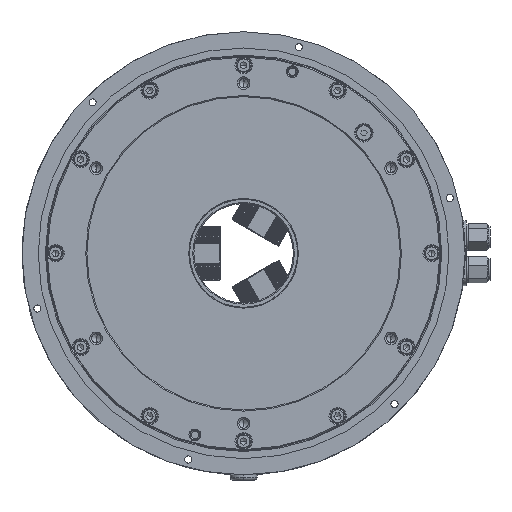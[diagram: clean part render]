
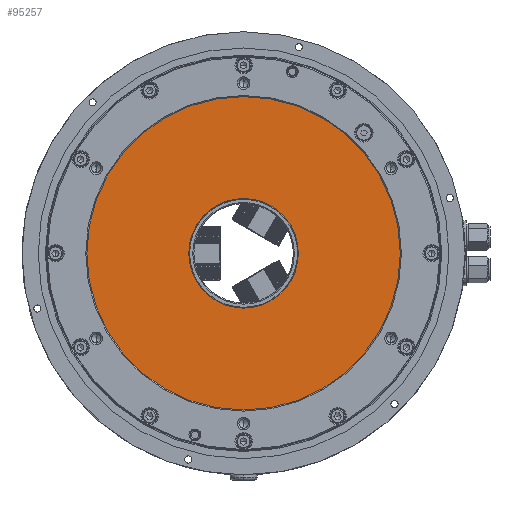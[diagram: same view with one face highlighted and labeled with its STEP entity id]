
A CAD part, left-side view. The second image highlights one B-rep face of the part: STEP entity #95257.
In plain terms, the highlighted planar face has unit normal (-1, 0, 0).
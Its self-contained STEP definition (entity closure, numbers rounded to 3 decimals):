
#1442 = ORIENTED_EDGE ( 'NONE', *, *, #46640, .T. ) ;
#1880 = DIRECTION ( 'NONE',  ( 0., 0., -1. ) ) ;
#4960 = DIRECTION ( 'NONE',  ( 1., 0., 0. ) ) ;
#5455 = DIRECTION ( 'NONE',  ( 0., 0., -1. ) ) ;
#14093 = EDGE_CURVE ( 'NONE', #69876, #135589, #16324, .T. ) ;
#16324 = CIRCLE ( 'NONE', #30796, 145. ) ;
#16886 = DIRECTION ( 'NONE',  ( 0., 0., 1. ) ) ;
#28160 = CARTESIAN_POINT ( 'NONE',  ( -147., 0., -145. ) ) ;
#30478 = CARTESIAN_POINT ( 'NONE',  ( -147., 145., 0. ) ) ;
#30796 = AXIS2_PLACEMENT_3D ( 'NONE', #33025, #4960, #173344 ) ;
#33025 = CARTESIAN_POINT ( 'NONE',  ( -147., 0., 0. ) ) ;
#38681 = DIRECTION ( 'NONE',  ( 1., 0., 0. ) ) ;
#44087 = FACE_OUTER_BOUND ( 'NONE', #70725, .T. ) ;
#46640 = EDGE_CURVE ( 'NONE', #113549, #73156, #59351, .T. ) ;
#53883 = ORIENTED_EDGE ( 'NONE', *, *, #14093, .F. ) ;
#54043 = CARTESIAN_POINT ( 'NONE',  ( -147., 0., 0. ) ) ;
#59351 = CIRCLE ( 'NONE', #82338, 50.7 ) ;
#62879 = CARTESIAN_POINT ( 'NONE',  ( -147., 0., 145. ) ) ;
#69876 = VERTEX_POINT ( 'NONE', #28160 ) ;
#70725 = EDGE_LOOP ( 'NONE', ( #53883, #108895 ) ) ;
#73156 = VERTEX_POINT ( 'NONE', #166239 ) ;
#74297 = CARTESIAN_POINT ( 'NONE',  ( -147., 0., 0. ) ) ;
#82338 = AXIS2_PLACEMENT_3D ( 'NONE', #54043, #38681, #149133 ) ;
#83434 = AXIS2_PLACEMENT_3D ( 'NONE', #152234, #96117, #1880 ) ;
#85704 = DIRECTION ( 'NONE',  ( -1., 0., 0. ) ) ;
#88711 = EDGE_CURVE ( 'NONE', #135589, #69876, #93597, .T. ) ;
#93597 = CIRCLE ( 'NONE', #171629, 145. ) ;
#95257 = ADVANCED_FACE ( 'NONE', ( #168095, #44087 ), #99326, .T. ) ;
#96117 = DIRECTION ( 'NONE',  ( 1., 0., 0. ) ) ;
#99326 = PLANE ( 'NONE',  #135111 ) ;
#101344 = ORIENTED_EDGE ( 'NONE', *, *, #121001, .T. ) ;
#108895 = ORIENTED_EDGE ( 'NONE', *, *, #88711, .F. ) ;
#113549 = VERTEX_POINT ( 'NONE', #139936 ) ;
#121001 = EDGE_CURVE ( 'NONE', #73156, #113549, #167315, .T. ) ;
#135111 = AXIS2_PLACEMENT_3D ( 'NONE', #30478, #85704, #16886 ) ;
#135589 = VERTEX_POINT ( 'NONE', #62879 ) ;
#139936 = CARTESIAN_POINT ( 'NONE',  ( -147., 0., -50.7 ) ) ;
#149133 = DIRECTION ( 'NONE',  ( 0., 0., -1. ) ) ;
#152234 = CARTESIAN_POINT ( 'NONE',  ( -147., 0., 0. ) ) ;
#166239 = CARTESIAN_POINT ( 'NONE',  ( -147., 0., 50.7 ) ) ;
#167315 = CIRCLE ( 'NONE', #83434, 50.7 ) ;
#168095 = FACE_BOUND ( 'NONE', #178426, .T. ) ;
#171629 = AXIS2_PLACEMENT_3D ( 'NONE', #74297, #172949, #5455 ) ;
#172949 = DIRECTION ( 'NONE',  ( 1., 0., 0. ) ) ;
#173344 = DIRECTION ( 'NONE',  ( 0., 0., -1. ) ) ;
#178426 = EDGE_LOOP ( 'NONE', ( #1442, #101344 ) ) ;
